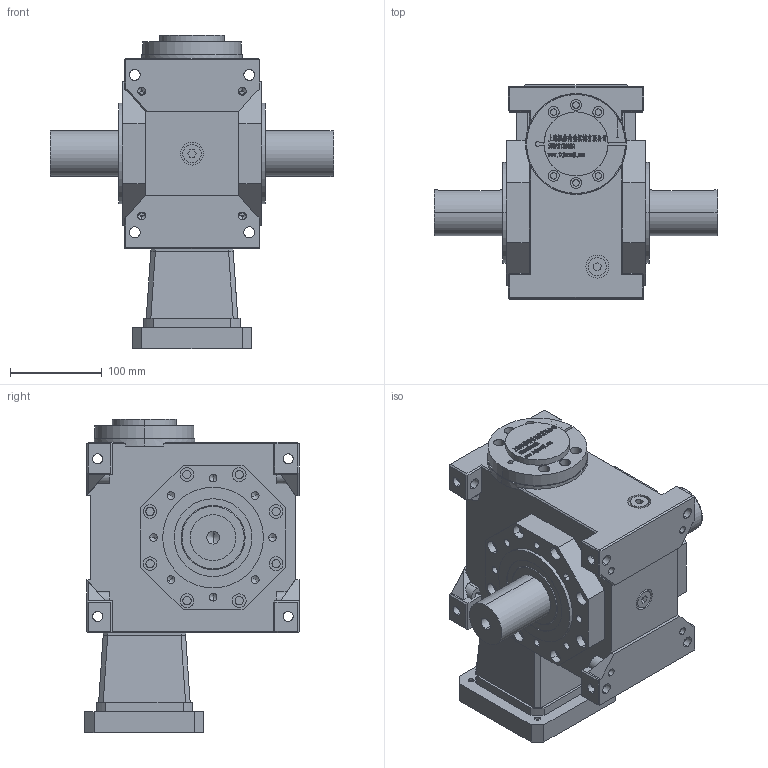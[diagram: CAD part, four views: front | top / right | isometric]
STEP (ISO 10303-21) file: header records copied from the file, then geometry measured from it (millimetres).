
FILE_DESCRIPTION (( 'STEP AP203' ), '1' );
FILE_NAME ('FXLB075-(5~90)-AB-24-110-145-M8.step', '2022-11-06T06:32:35', ( '' ), ( '' ), 'SwSTEP 2.0', 'SolidWorks 2020', '' );
FILE_SCHEMA (( 'CONFIG_CONTROL_DESIGN' ));
Length unit declared in the file: millimetre
Products named in the file (8): JDLB075-AB________50.step; JDLB075-CR____.step; FXLB075-(5~90)-AB-24-110-145-M8; ______BD68-73.3-24-24____.step; ST130-110-145-M8____________.step; 錨璃271^FXLB075-(5~90)-AB-24-110-145-M8; FXLB075-(5~90)-AB-24-110-145-M8.step; JDLB075-ST105________1.step
Assembly tree (7 placements, depth 3):
  FXLB075-(5~90)-AB-24-110-145-M8
    FXLB075-(5~90)-AB-24-110-145-M8.step
      JDLB075-CR____.step
      JDLB075-ST105________1.step
      ST130-110-145-M8____________.step
      JDLB075-AB________50.step
      ______BD68-73.3-24-24____.step
    錨璃271^FXLB075-(5~90)-AB-24-110-145-M8
Bounding box: 310 x 234 x 342.2 mm (x, y, z)
Volume: 7378904.7 mm3; surface area: 608449.3 mm2
Topology: 82 solids, 82 shells, 2702 faces, 7057 edges, 4602 vertices
Faces by surface type: plane 1549, bspline 572, cylinder 457, cone 106, torus 18
Entity records: 113724 total; most frequent: CARTESIAN_POINT 49919, ORIENTED_EDGE 13986, DIRECTION 11015, EDGE_CURVE 6993, VECTOR 4761, LINE 4761, VERTEX_POINT 4602, AXIS2_PLACEMENT_3D 3127
